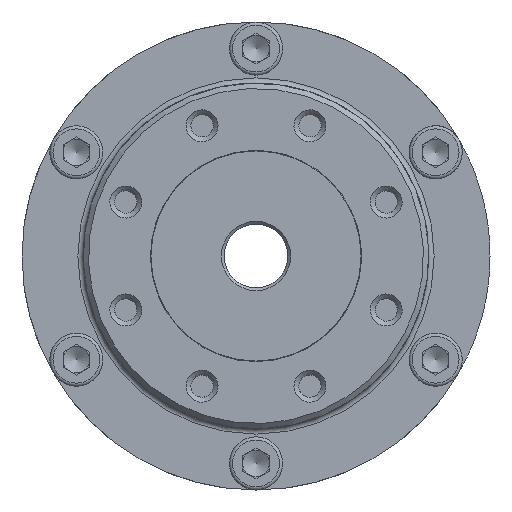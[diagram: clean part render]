
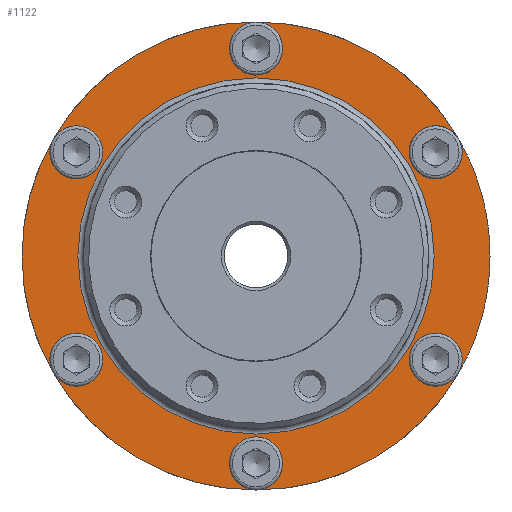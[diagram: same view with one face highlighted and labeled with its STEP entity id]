
A CAD part, left-side view. The second image highlights one B-rep face of the part: STEP entity #1122.
In plain terms, the highlighted planar face has unit normal (-1, 0, 0).
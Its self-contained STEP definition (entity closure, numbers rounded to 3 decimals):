
#1122 = ADVANCED_FACE( '', ( #2981, #2982 ), #2983, .F. );
#2981 = FACE_OUTER_BOUND( '', #5899, .T. );
#2982 = FACE_BOUND( '', #5900, .T. );
#2983 = PLANE( '', #5901 );
#5899 = EDGE_LOOP( '', ( #9411, #9412, #9413, #9414, #9415, #9416, #9417, #9418, #9419, #9420, #9421, #9422 ) );
#5900 = EDGE_LOOP( '', ( #9423 ) );
#5901 = AXIS2_PLACEMENT_3D( '', #9424, #9425, #9426 );
#9411 = ORIENTED_EDGE( '', *, *, #15677, .T. );
#9412 = ORIENTED_EDGE( '', *, *, #15678, .F. );
#9413 = ORIENTED_EDGE( '', *, *, #15679, .T. );
#9414 = ORIENTED_EDGE( '', *, *, #15680, .F. );
#9415 = ORIENTED_EDGE( '', *, *, #15681, .T. );
#9416 = ORIENTED_EDGE( '', *, *, #15682, .F. );
#9417 = ORIENTED_EDGE( '', *, *, #15683, .T. );
#9418 = ORIENTED_EDGE( '', *, *, #15684, .F. );
#9419 = ORIENTED_EDGE( '', *, *, #15685, .T. );
#9420 = ORIENTED_EDGE( '', *, *, #15385, .F. );
#9421 = ORIENTED_EDGE( '', *, *, #15686, .T. );
#9422 = ORIENTED_EDGE( '', *, *, #15687, .F. );
#9423 = ORIENTED_EDGE( '', *, *, #15688, .F. );
#9424 = CARTESIAN_POINT( '', ( -3.05, 0., 44. ) );
#9425 = DIRECTION( '', ( 1., 0., 0. ) );
#9426 = DIRECTION( '', ( 0., 1., 0. ) );
#15385 = EDGE_CURVE( '', #18174, #18174, #18175, .T. );
#15677 = EDGE_CURVE( '', #18652, #18653, #18654, .T. );
#15678 = EDGE_CURVE( '', #18653, #18653, #18655, .T. );
#15679 = EDGE_CURVE( '', #18653, #18656, #18657, .T. );
#15680 = EDGE_CURVE( '', #18656, #18656, #18658, .T. );
#15681 = EDGE_CURVE( '', #18656, #18659, #18660, .T. );
#15682 = EDGE_CURVE( '', #18659, #18659, #18661, .T. );
#15683 = EDGE_CURVE( '', #18659, #18662, #18663, .T. );
#15684 = EDGE_CURVE( '', #18662, #18662, #18664, .T. );
#15685 = EDGE_CURVE( '', #18662, #18174, #18665, .T. );
#15686 = EDGE_CURVE( '', #18174, #18652, #18666, .T. );
#15687 = EDGE_CURVE( '', #18652, #18652, #18667, .T. );
#15688 = EDGE_CURVE( '', #18668, #18668, #18669, .T. );
#18174 = VERTEX_POINT( '', #22419 );
#18175 = CIRCLE( '', #22420, 5. );
#18652 = VERTEX_POINT( '', #23291 );
#18653 = VERTEX_POINT( '', #23292 );
#18654 = CIRCLE( '', #23293, 44. );
#18655 = CIRCLE( '', #23294, 5. );
#18656 = VERTEX_POINT( '', #23295 );
#18657 = CIRCLE( '', #23296, 44. );
#18658 = CIRCLE( '', #23297, 5. );
#18659 = VERTEX_POINT( '', #23298 );
#18660 = CIRCLE( '', #23299, 44. );
#18661 = CIRCLE( '', #23300, 5. );
#18662 = VERTEX_POINT( '', #23301 );
#18663 = CIRCLE( '', #23302, 44. );
#18664 = CIRCLE( '', #23303, 5. );
#18665 = CIRCLE( '', #23304, 44. );
#18666 = CIRCLE( '', #23305, 44. );
#18667 = CIRCLE( '', #23306, 5. );
#18668 = VERTEX_POINT( '', #23307 );
#18669 = CIRCLE( '', #23308, 33.5 );
#22419 = CARTESIAN_POINT( '', ( -3.05, 0., -44. ) );
#22420 = AXIS2_PLACEMENT_3D( '', #28791, #28792, #28793 );
#23291 = CARTESIAN_POINT( '', ( -3.05, -38.105, -22. ) );
#23292 = CARTESIAN_POINT( '', ( -3.05, -38.105, 22. ) );
#23293 = AXIS2_PLACEMENT_3D( '', #29205, #29206, #29207 );
#23294 = AXIS2_PLACEMENT_3D( '', #29208, #29209, #29210 );
#23295 = CARTESIAN_POINT( '', ( -3.05, 0., 44. ) );
#23296 = AXIS2_PLACEMENT_3D( '', #29211, #29212, #29213 );
#23297 = AXIS2_PLACEMENT_3D( '', #29214, #29215, #29216 );
#23298 = CARTESIAN_POINT( '', ( -3.05, 38.105, 22. ) );
#23299 = AXIS2_PLACEMENT_3D( '', #29217, #29218, #29219 );
#23300 = AXIS2_PLACEMENT_3D( '', #29220, #29221, #29222 );
#23301 = CARTESIAN_POINT( '', ( -3.05, 38.105, -22. ) );
#23302 = AXIS2_PLACEMENT_3D( '', #29223, #29224, #29225 );
#23303 = AXIS2_PLACEMENT_3D( '', #29226, #29227, #29228 );
#23304 = AXIS2_PLACEMENT_3D( '', #29229, #29230, #29231 );
#23305 = AXIS2_PLACEMENT_3D( '', #29232, #29233, #29234 );
#23306 = AXIS2_PLACEMENT_3D( '', #29235, #29236, #29237 );
#23307 = CARTESIAN_POINT( '', ( -3.05, 0., 33.5 ) );
#23308 = AXIS2_PLACEMENT_3D( '', #29238, #29239, #29240 );
#28791 = CARTESIAN_POINT( '', ( -3.05, 0., -39. ) );
#28792 = DIRECTION( '', ( -1., 0., 0. ) );
#28793 = DIRECTION( '', ( 0., 0., -1. ) );
#29205 = CARTESIAN_POINT( '', ( -3.05, 0., 0. ) );
#29206 = DIRECTION( '', ( -1., 0., 0. ) );
#29207 = DIRECTION( '', ( 0., 0., -1. ) );
#29208 = CARTESIAN_POINT( '', ( -3.05, -33.775, 19.5 ) );
#29209 = DIRECTION( '', ( -1., 0., 0. ) );
#29210 = DIRECTION( '', ( 0., -0.866, 0.5 ) );
#29211 = CARTESIAN_POINT( '', ( -3.05, 0., 0. ) );
#29212 = DIRECTION( '', ( -1., 0., 0. ) );
#29213 = DIRECTION( '', ( 0., 0., -1. ) );
#29214 = CARTESIAN_POINT( '', ( -3.05, 0., 39. ) );
#29215 = DIRECTION( '', ( -1., 0., 0. ) );
#29216 = DIRECTION( '', ( 0., 0., 1. ) );
#29217 = CARTESIAN_POINT( '', ( -3.05, 0., 0. ) );
#29218 = DIRECTION( '', ( -1., 0., 0. ) );
#29219 = DIRECTION( '', ( 0., 0., -1. ) );
#29220 = CARTESIAN_POINT( '', ( -3.05, 33.775, 19.5 ) );
#29221 = DIRECTION( '', ( -1., 0., 0. ) );
#29222 = DIRECTION( '', ( 0., 0.866, 0.5 ) );
#29223 = CARTESIAN_POINT( '', ( -3.05, 0., 0. ) );
#29224 = DIRECTION( '', ( -1., 0., 0. ) );
#29225 = DIRECTION( '', ( 0., 0., -1. ) );
#29226 = CARTESIAN_POINT( '', ( -3.05, 33.775, -19.5 ) );
#29227 = DIRECTION( '', ( -1., 0., 0. ) );
#29228 = DIRECTION( '', ( 0., 0.866, -0.5 ) );
#29229 = CARTESIAN_POINT( '', ( -3.05, 0., 0. ) );
#29230 = DIRECTION( '', ( -1., 0., 0. ) );
#29231 = DIRECTION( '', ( 0., 0., -1. ) );
#29232 = CARTESIAN_POINT( '', ( -3.05, 0., 0. ) );
#29233 = DIRECTION( '', ( -1., 0., 0. ) );
#29234 = DIRECTION( '', ( 0., 0., -1. ) );
#29235 = CARTESIAN_POINT( '', ( -3.05, -33.775, -19.5 ) );
#29236 = DIRECTION( '', ( -1., 0., 0. ) );
#29237 = DIRECTION( '', ( 0., -0.866, -0.5 ) );
#29238 = CARTESIAN_POINT( '', ( -3.05, 0., 0. ) );
#29239 = DIRECTION( '', ( -1., 0., 0. ) );
#29240 = DIRECTION( '', ( 0., 0., 1. ) );
